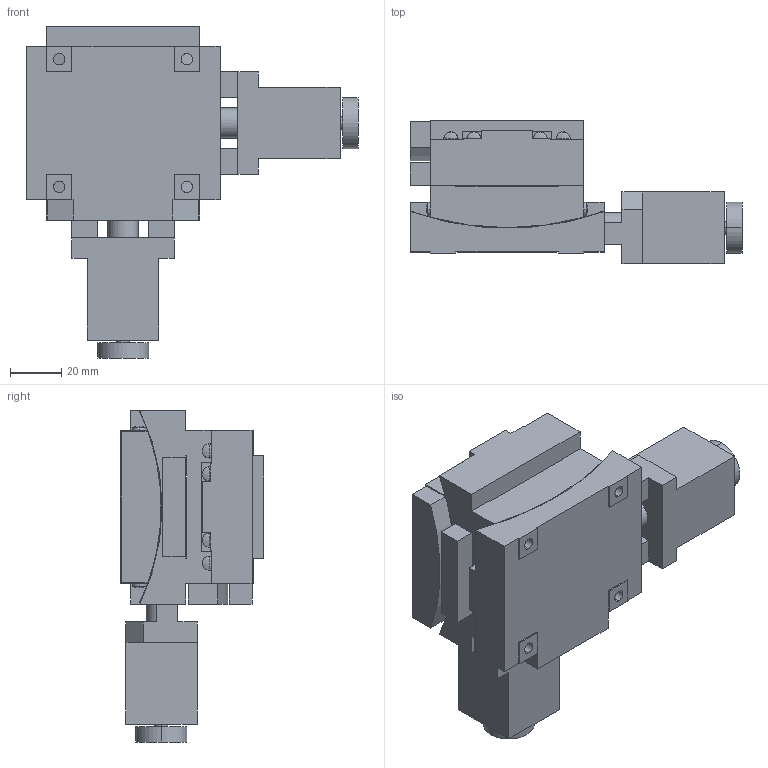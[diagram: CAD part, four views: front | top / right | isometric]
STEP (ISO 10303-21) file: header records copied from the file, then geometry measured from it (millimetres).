
FILE_DESCRIPTION (( 'STEP AP203' ), '1' );
FILE_NAME ('ATD-C612B-HM_a.STEP', '2017-05-10T08:09:09', ( '' ), ( '' ), 'SwSTEP 2.0', 'SolidWorks 2016', '' );
FILE_SCHEMA (( 'CONFIG_CONTROL_DESIGN' ));
Length unit declared in the file: millimetre
Products named in the file (4): ATD-C612B-HM-3; ATD-C612B-HM_a; ATD-C612B-HM-1; ATD-C612B-HM-2
Assembly tree (3 placements, depth 2):
  ATD-C612B-HM_a
    ATD-C612B-HM-1
    ATD-C612B-HM-2
    ATD-C612B-HM-3
Bounding box: 130 x 56 x 130 mm (x, y, z)
Volume: 306959.1 mm3; surface area: 72872.6 mm2
Topology: 3 solids, 11 shells, 418 faces, 1016 edges, 656 vertices
Faces by surface type: plane 190, cylinder 152, cone 44, sphere 32
Entity records: 13630 total; most frequent: CARTESIAN_POINT 3136, DIRECTION 2164, ORIENTED_EDGE 2008, EDGE_CURVE 1004, AXIS2_PLACEMENT_3D 788, VERTEX_POINT 656, LINE 588, VECTOR 588
